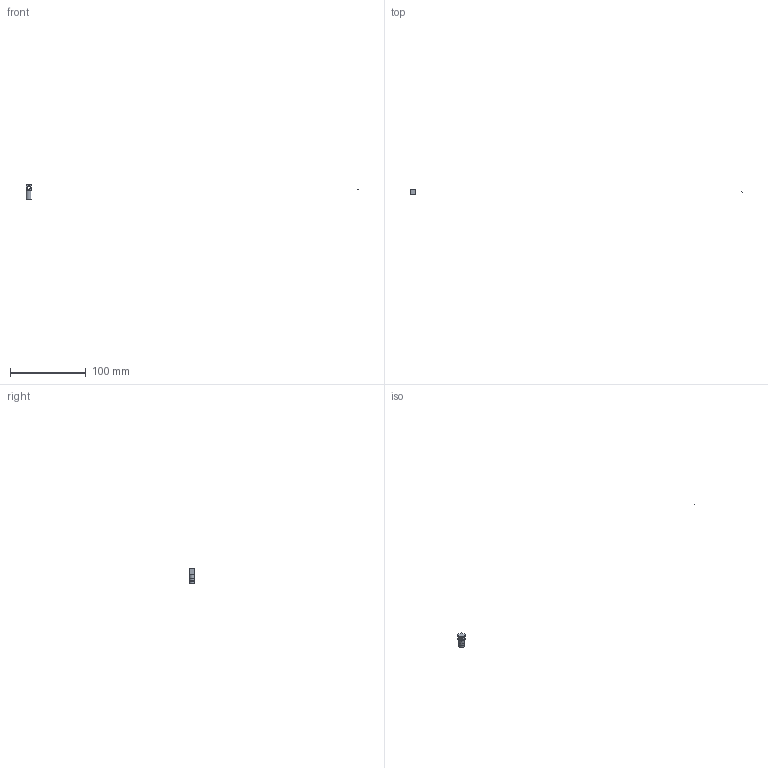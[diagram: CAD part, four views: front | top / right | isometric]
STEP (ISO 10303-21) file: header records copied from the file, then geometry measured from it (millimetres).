
FILE_DESCRIPTION (( 'STEP AP203' ), '1' );
FILE_NAME ('RX-102B-RS.STEP', '2025-04-02T18:41:20', ( '' ), ( '' ), 'SwSTEP 2.0', 'SolidWorks 2023', '' );
FILE_SCHEMA (( 'CONFIG_CONTROL_DESIGN' ));
Length unit declared in the file: millimetre
Products named in the file (1): RX-102B-RS
Bounding box: 437.95 x 7.21 x 18.77 mm (x, y, z)
Volume: 590 mm3; surface area: 1324.6 mm2
Topology: 1 solids, 1 shells, 39 faces, 94 edges, 57 vertices
Faces by surface type: plane 17, bspline 12, cylinder 9, cone 1
Full cylindrical faces by diameter (mm): 0.127 x2, 4.5 x1, 4.826 x2, 5.969 x1, 6.858 x1
Entity records: 3411 total; most frequent: CARTESIAN_POINT 2604, ORIENTED_EDGE 136, DIRECTION 124, EDGE_CURVE 68, EDGE_LOOP 65, FACE_OUTER_BOUND 58, VERTEX_POINT 51, AXIS2_PLACEMENT_3D 47
